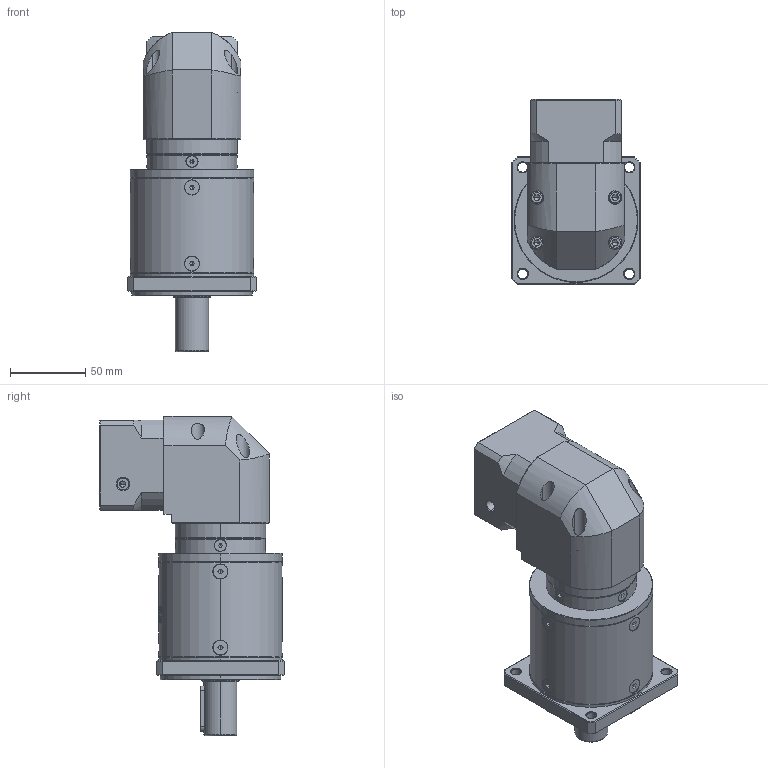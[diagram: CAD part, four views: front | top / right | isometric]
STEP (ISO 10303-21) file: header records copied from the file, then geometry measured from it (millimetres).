
FILE_DESCRIPTION (( 'STEP AP214' ), '1' );
FILE_NAME ('ZFR080-D22-L3-P2-8-30-46-M4.step', '2023-08-25T07:23:06', ( '' ), ( '' ), 'SwSTEP 2.0', 'SolidWorks 2016', '' );
FILE_SCHEMA (( 'AUTOMOTIVE_DESIGN' ));
Length unit declared in the file: millimetre
Products named in the file (1): ZFR080-D22-L3-P2-8-30-46-M4
Bounding box: 85 x 122.7 x 212 mm (x, y, z)
Volume: 897941 mm3; surface area: 109023.8 mm2
Topology: 17 solids, 18 shells, 2493 faces, 6547 edges, 4174 vertices
Faces by surface type: plane 1174, bspline 458, cylinder 434, cone 379, torus 48
Entity records: 148489 total; most frequent: CARTESIAN_POINT 64879, ORIENTED_EDGE 13018, DIRECTION 9846, EDGE_CURVE 6509, VERTEX_POINT 4174, LINE 3354, VECTOR 3354, AXIS2_PLACEMENT_3D 3246
